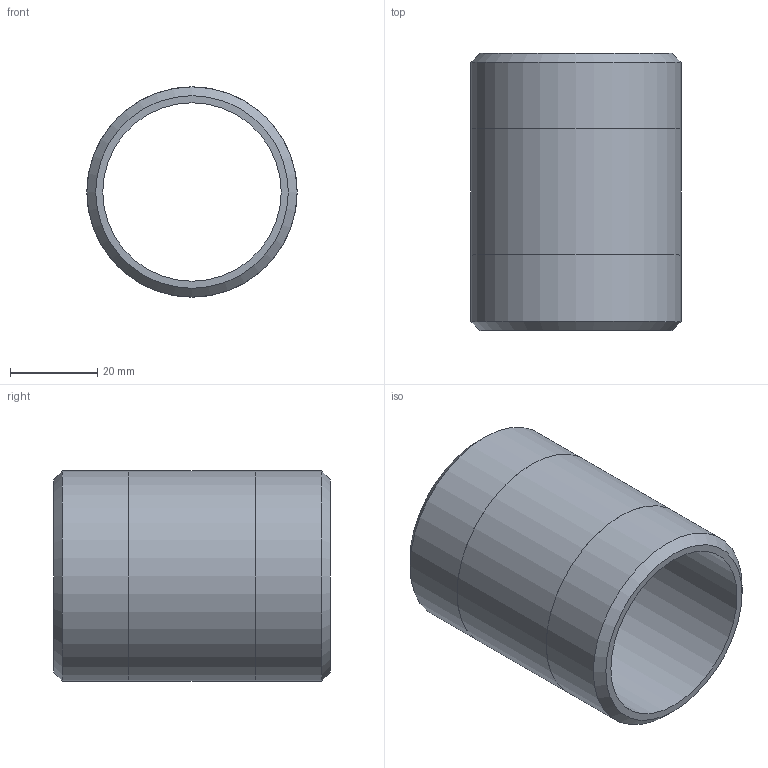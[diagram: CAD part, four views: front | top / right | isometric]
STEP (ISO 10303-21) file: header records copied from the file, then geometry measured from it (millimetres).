
FILE_DESCRIPTION(/* description */ (''),/* implementation_level */ '2;1');
FILE_NAME(/* name */ 'C:/Users/drich/Desktop/SSPN1-1_2-2-1_2 v1.step',/* time_stamp */ '2020-01-03T16:19:08-06:00',/* author */ (''),/* organization */ (''),/* preprocessor_version */ 'ST-DEVELOPER v18',/* originating_system */ 'Autodesk Translation Framework v8.12.0.6',/* authorisation */ '');
FILE_SCHEMA (('AUTOMOTIVE_DESIGN { 1 0 10303 214 3 1 1 }'));
Length unit declared in the file: inch
Products named in the file (1): SSPN1-1_2-2-1_2
Bounding box: 48.26 x 63.5 x 48.26 mm (x, y, z)
Volume: 32010.9 mm3; surface area: 18440.2 mm2
Topology: 1 solids, 1 shells, 10 faces, 24 edges, 18 vertices
Faces by surface type: cylinder 4, plane 4, cone 2
Full cylindrical faces by diameter (mm): 40.894 x1, 48.209 x2, 48.26 x1
Entity records: 353 total; most frequent: DIRECTION 64, CARTESIAN_POINT 53, ORIENTED_EDGE 48, AXIS2_PLACEMENT_3D 29, EDGE_CURVE 24, CIRCLE 18, VERTEX_POINT 18, EDGE_LOOP 14
